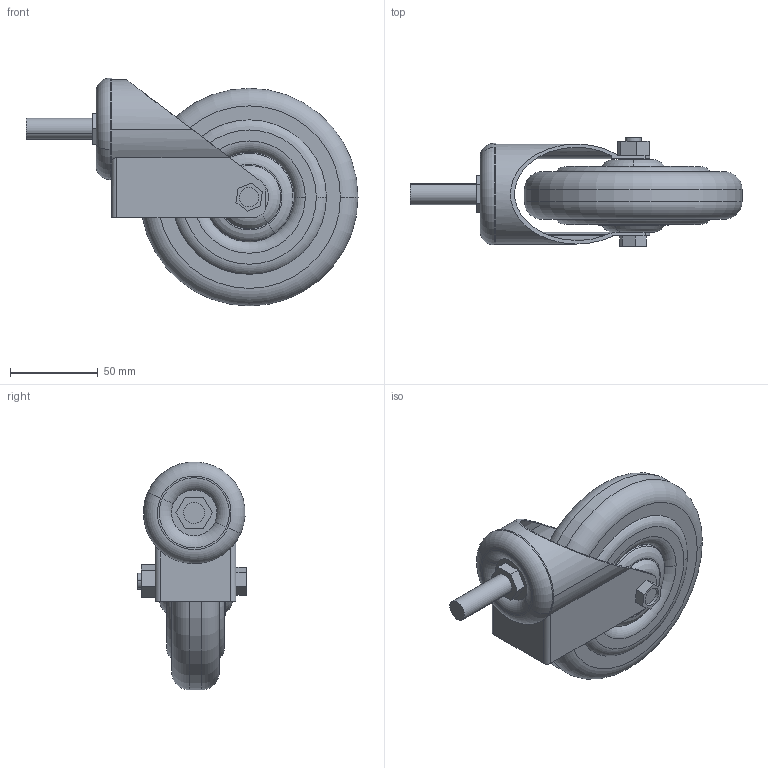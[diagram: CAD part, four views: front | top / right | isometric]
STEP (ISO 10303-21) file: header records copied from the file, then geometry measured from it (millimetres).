
FILE_DESCRIPTION (( 'STEP AP203' ), '1' );
FILE_NAME ('RSI936125.STEP', '2016-04-03T09:27:00', ( '' ), ( '' ), 'SwSTEP 2.0', 'SolidWorks 2014', '' );
FILE_SCHEMA (( 'CONFIG_CONTROL_DESIGN' ));
Length unit declared in the file: millimetre
Products named in the file (7): RSI936125; 膰錼勷; çàùèòà; 闃膼瘔; 搿錓; ãàéêà; ïîäøèáíèê
Assembly tree (7 placements, depth 2):
  RSI936125
    膰錼勷
    çàùèòà  x2
    闃膼瘔
    搿錓
    ãàéêà
    ïîäøèáíèê
Bounding box: 189.17 x 62 x 129.84 mm (x, y, z)
Volume: 366989.9 mm3; surface area: 88816.3 mm2
Topology: 7 solids, 7 shells, 171 faces, 396 edges, 254 vertices
Faces by surface type: plane 68, cylinder 59, torus 44
Entity records: 5199 total; most frequent: DIRECTION 839, CARTESIAN_POINT 833, ORIENTED_EDGE 704, EDGE_CURVE 352, AXIS2_PLACEMENT_3D 344, VERTEX_POINT 226, CIRCLE 185, EDGE_LOOP 174
